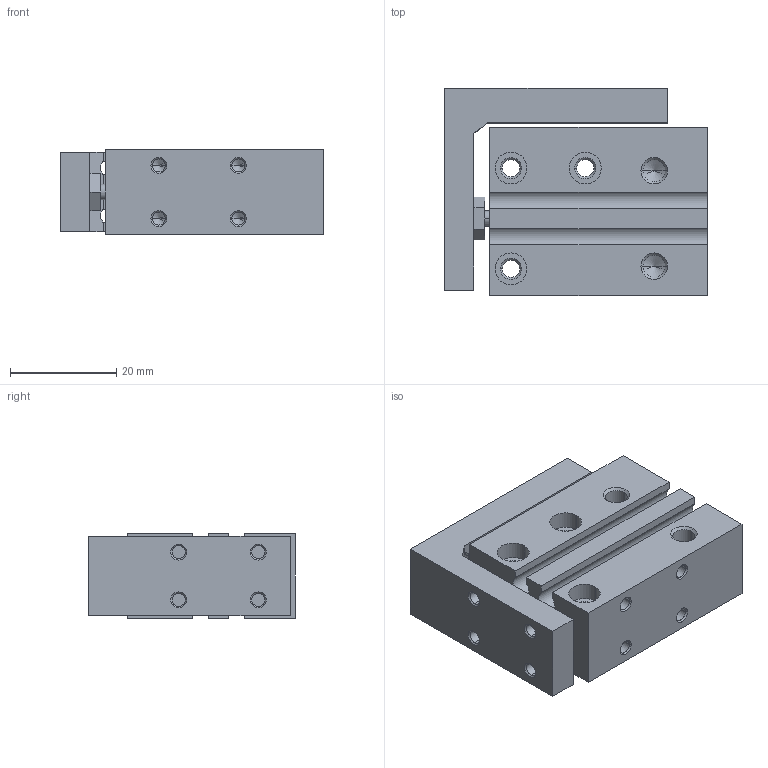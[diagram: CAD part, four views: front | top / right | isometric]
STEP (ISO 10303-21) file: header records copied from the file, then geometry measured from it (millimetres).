
FILE_DESCRIPTION (( 'STEP AP203' ), '1' );
FILE_NAME ('CXH6-10.STEP', '2020-04-16T18:00:04', ( '' ), ( '' ), 'SwSTEP 2.0', 'SolidWorks 2019', '' );
FILE_SCHEMA (( 'CONFIG_CONTROL_DESIGN' ));
Length unit declared in the file: millimetre
Products named in the file (1): CXH6-10
Bounding box: 49.5 x 39 x 16 mm (x, y, z)
Volume: 22927.6 mm3; surface area: 12273.7 mm2
Topology: 2 solids, 2 shells, 208 faces, 495 edges, 286 vertices
Faces by surface type: cone 88, cylinder 76, plane 44
Entity records: 6004 total; most frequent: DIRECTION 1093, CARTESIAN_POINT 1080, ORIENTED_EDGE 934, EDGE_CURVE 467, AXIS2_PLACEMENT_3D 421, VERTEX_POINT 286, EDGE_LOOP 253, LINE 251
